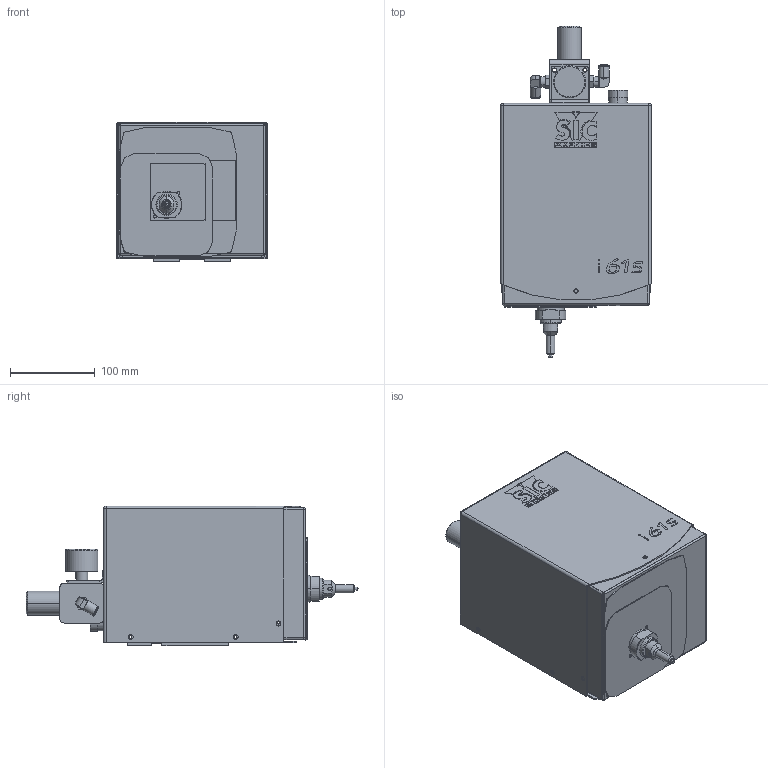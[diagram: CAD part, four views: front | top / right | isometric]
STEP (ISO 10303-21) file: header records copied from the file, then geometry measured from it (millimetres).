
FILE_DESCRIPTION (( 'STEP AP214' ), '1' );
FILE_NAME ('i61s.STEP', '2006-10-11T14:24:07', ( 'UTILISATEUR' ), ( '' ), 'SwSTEP 2.0', 'SolidWorks 2005204', '' );
FILE_SCHEMA (( 'AUTOMOTIVE_DESIGN' ));
Length unit declared in the file: millimetre
Products named in the file (1): i61s
Bounding box: 178 x 392 x 165.1 mm (x, y, z)
Volume: 712611.8 mm3; surface area: 609690.9 mm2
Topology: 34 solids, 34 shells, 1142 faces, 2841 edges, 1847 vertices
Faces by surface type: plane 591, cylinder 436, cone 59, bspline 38, sphere 12, torus 6
Entity records: 56143 total; most frequent: CARTESIAN_POINT 15199, DIRECTION 5867, ORIENTED_EDGE 5646, EDGE_CURVE 2823, AXIS2_PLACEMENT_3D 2057, VERTEX_POINT 1847, LINE 1753, VECTOR 1753
